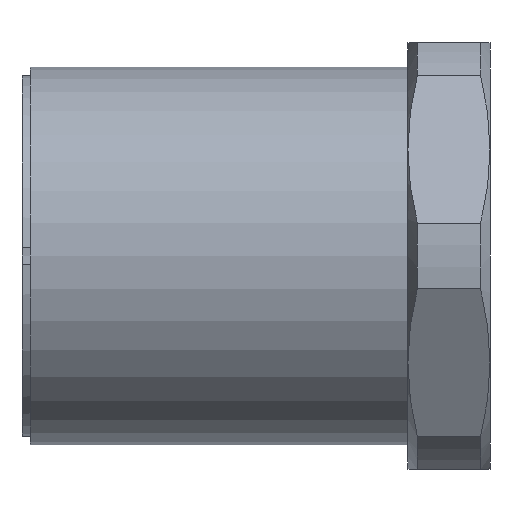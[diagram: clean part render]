
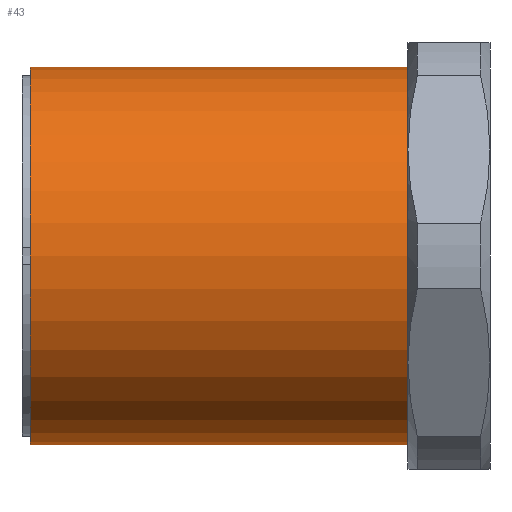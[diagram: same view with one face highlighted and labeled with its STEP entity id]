
A CAD part, front view. The second image highlights one B-rep face of the part: STEP entity #43.
In plain terms, the highlighted cylindrical face has radius 11.5 mm (diameter 23 mm), a partial arc.
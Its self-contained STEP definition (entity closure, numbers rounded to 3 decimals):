
#43 = ADVANCED_FACE ( 'NONE', ( #1336 ), #1364, .T. ) ;
#158 = CARTESIAN_POINT ( 'NONE',  ( 0., 0., 0. ) ) ;
#160 = DIRECTION ( 'NONE',  ( -1., 0., 0. ) ) ;
#175 = DIRECTION ( 'NONE',  ( 0., 0., 1. ) ) ;
#201 = CARTESIAN_POINT ( 'NONE',  ( 23., 0., -11.5 ) ) ;
#204 = CARTESIAN_POINT ( 'NONE',  ( 0., 0., 11.5 ) ) ;
#208 = CARTESIAN_POINT ( 'NONE',  ( 0., 0., -11.5 ) ) ;
#210 = CARTESIAN_POINT ( 'NONE',  ( 23., 0., 11.5 ) ) ;
#258 = DIRECTION ( 'NONE',  ( -1., 0., 0. ) ) ;
#259 = CARTESIAN_POINT ( 'NONE',  ( 0., 0., -11.5 ) ) ;
#270 = DIRECTION ( 'NONE',  ( 0., 0., 1. ) ) ;
#271 = DIRECTION ( 'NONE',  ( -1., 0., 0. ) ) ;
#279 = CARTESIAN_POINT ( 'NONE',  ( 23., 0., 0. ) ) ;
#317 = DIRECTION ( 'NONE',  ( -1., 0., 0. ) ) ;
#318 = CARTESIAN_POINT ( 'NONE',  ( 0., 0., 11.5 ) ) ;
#356 = DIRECTION ( 'NONE',  ( 0., 0., 1. ) ) ;
#357 = DIRECTION ( 'NONE',  ( -1., 0., 0. ) ) ;
#366 = CARTESIAN_POINT ( 'NONE',  ( 0., 0., 0. ) ) ;
#664 = ORIENTED_EDGE ( 'NONE', *, *, #1056, .F. ) ;
#666 = ORIENTED_EDGE ( 'NONE', *, *, #1051, .T. ) ;
#670 = ORIENTED_EDGE ( 'NONE', *, *, #1032, .T. ) ;
#676 = ORIENTED_EDGE ( 'NONE', *, *, #1007, .F. ) ;
#921 = AXIS2_PLACEMENT_3D ( 'NONE', #366, #357, #356 ) ;
#924 = AXIS2_PLACEMENT_3D ( 'NONE', #158, #160, #175 ) ;
#1007 = EDGE_CURVE ( 'NONE', #1179, #1183, #1534, .T. ) ;
#1021 = AXIS2_PLACEMENT_3D ( 'NONE', #279, #271, #270 ) ;
#1032 = EDGE_CURVE ( 'NONE', #1177, #1183, #1517, .T. ) ;
#1051 = EDGE_CURVE ( 'NONE', #1185, #1177, #1385, .T. ) ;
#1056 = EDGE_CURVE ( 'NONE', #1185, #1179, #1492, .T. ) ;
#1177 = VERTEX_POINT ( 'NONE', #210 ) ;
#1179 = VERTEX_POINT ( 'NONE', #208 ) ;
#1183 = VERTEX_POINT ( 'NONE', #204 ) ;
#1185 = VERTEX_POINT ( 'NONE', #201 ) ;
#1312 = EDGE_LOOP ( 'NONE', ( #664, #666, #670, #676 ) ) ;
#1336 = FACE_OUTER_BOUND ( 'NONE', #1312, .T. ) ;
#1364 = CYLINDRICAL_SURFACE ( 'NONE', #924, 11.5 ) ;
#1385 = CIRCLE ( 'NONE', #1021, 11.5 ) ;
#1463 = VECTOR ( 'NONE', #258, 1000. ) ;
#1492 = LINE ( 'NONE', #259, #1463 ) ;
#1508 = VECTOR ( 'NONE', #317, 1000. ) ;
#1517 = LINE ( 'NONE', #318, #1508 ) ;
#1534 = CIRCLE ( 'NONE', #921, 11.5 ) ;
